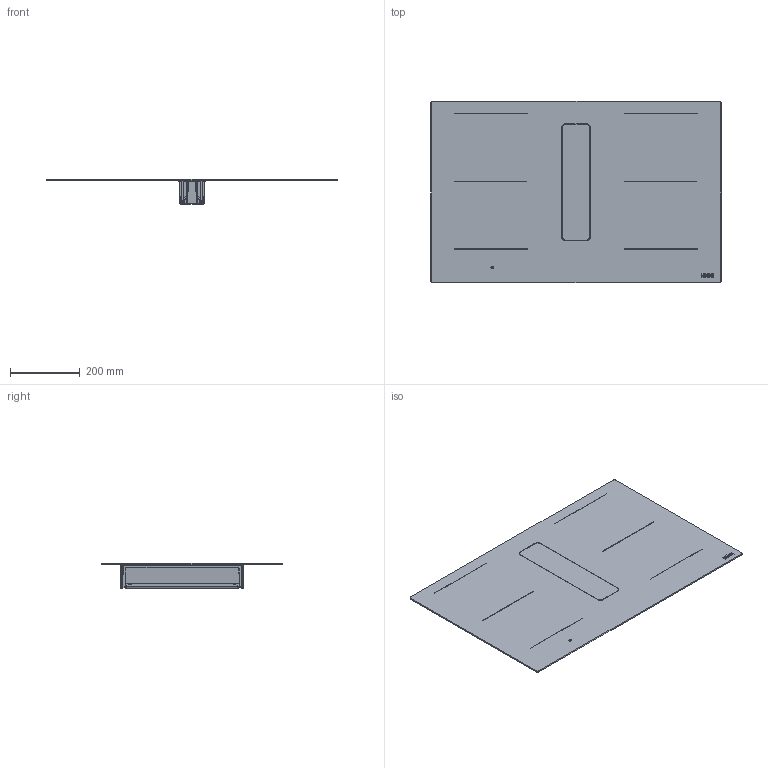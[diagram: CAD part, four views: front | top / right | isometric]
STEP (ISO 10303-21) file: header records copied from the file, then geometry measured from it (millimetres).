
FILE_DESCRIPTION(/* description */ (''),/* implementation_level */ '2;1');
FILE_NAME(/* name */ '3D001_Hob extractors_Mythos 2gether_Slide',/* time_stamp */ '2026-06-09T09:58:45+02:00',/* author */ (''),/* organization */ (''),/* preprocessor_version */ 'ST-DEVELOPER v19.2',/* originating_system */ 'Rhino 8.31',/* authorisation */ '');
FILE_SCHEMA (('CONFIG_CONTROL_DESIGN'));
Length unit declared in the file: millimetre
Products named in the file (11): Document; 340006_1020_ASM; 340006_299; 340006_298; 340006_300; SCR_036; Blocco 02; 340010_772_ASM; 340010_773_ASM; 340010_067; 340010_066
Bounding box: 829.97 x 519.97 x 73.45 mm (x, y, z)
Volume: 2002646.5 mm3; surface area: 1151897.4 mm2
Topology: 123 solids, 124 shells, 2361 faces, 5562 edges, 3435 vertices
Faces by surface type: plane 1216, cylinder 614, bspline 531
Entity records: 89328 total; most frequent: CARTESIAN_POINT 50773, ORIENTED_EDGE 9470, EDGE_CURVE 4743, DIRECTION 3783, B_SPLINE_CURVE_WITH_KNOTS 3700, VERTEX_POINT 2904, AXIS2_PLACEMENT_3D 2715, EDGE_LOOP 2109
